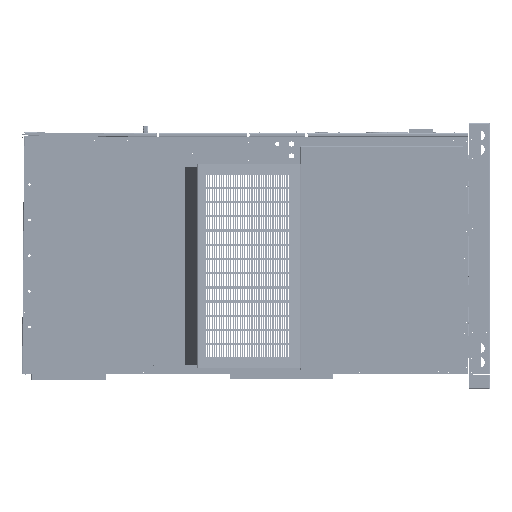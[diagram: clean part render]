
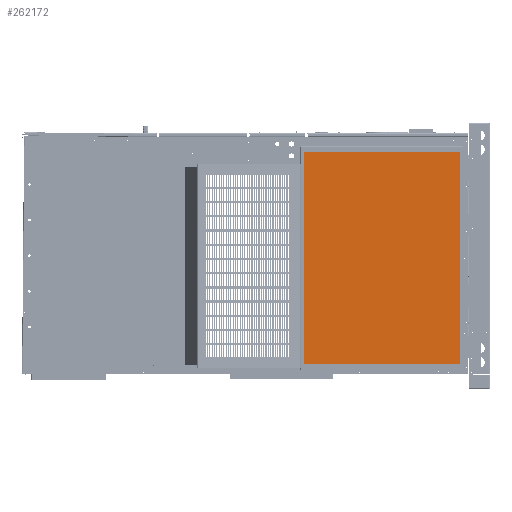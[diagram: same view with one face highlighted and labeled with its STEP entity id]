
A CAD part, left-side view. The second image highlights one B-rep face of the part: STEP entity #262172.
In plain terms, the highlighted planar face has unit normal (-1, 0, 0).
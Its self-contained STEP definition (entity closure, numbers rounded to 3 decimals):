
#28095 = ORIENTED_EDGE ( 'NONE', *, *, #362838, .T. ) ;
#33561 = LINE ( 'NONE', #519769, #161753 ) ;
#69043 = PLANE ( 'NONE',  #358451 ) ;
#81263 = CARTESIAN_POINT ( 'NONE',  ( 16.91, 2013.959, 569.305 ) ) ;
#90401 = VERTEX_POINT ( 'NONE', #150671 ) ;
#125371 = DIRECTION ( 'NONE',  ( 0., 0., -1. ) ) ;
#140235 = EDGE_CURVE ( 'NONE', #234863, #266082, #672317, .T. ) ;
#150671 = CARTESIAN_POINT ( 'NONE',  ( 16.91, 1177.804, 1704.346 ) ) ;
#161753 = VECTOR ( 'NONE', #163139, 1000. ) ;
#161867 = VECTOR ( 'NONE', #125371, 1000. ) ;
#163139 = DIRECTION ( 'NONE',  ( 0., 0., 1. ) ) ;
#234863 = VERTEX_POINT ( 'NONE', #472900 ) ;
#255288 = DIRECTION ( 'NONE',  ( 0., 0., 1. ) ) ;
#262172 = ADVANCED_FACE ( 'NONE', ( #623913 ), #69043, .T. ) ;
#266082 = VERTEX_POINT ( 'NONE', #421375 ) ;
#299044 = ORIENTED_EDGE ( 'NONE', *, *, #385515, .T. ) ;
#315654 = LINE ( 'NONE', #745170, #540005 ) ;
#358451 = AXIS2_PLACEMENT_3D ( 'NONE', #502436, #692673, #255288 ) ;
#362838 = EDGE_CURVE ( 'NONE', #711139, #90401, #33561, .T. ) ;
#370937 = ORIENTED_EDGE ( 'NONE', *, *, #501978, .T. ) ;
#380429 = CARTESIAN_POINT ( 'NONE',  ( 16.91, 2013.959, 1704.346 ) ) ;
#385515 = EDGE_CURVE ( 'NONE', #266082, #711139, #591392, .T. ) ;
#421375 = CARTESIAN_POINT ( 'NONE',  ( 16.91, 2013.959, 569.305 ) ) ;
#438060 = CARTESIAN_POINT ( 'NONE',  ( 16.91, 1177.804, 569.305 ) ) ;
#468906 = ORIENTED_EDGE ( 'NONE', *, *, #140235, .T. ) ;
#472900 = CARTESIAN_POINT ( 'NONE',  ( 16.91, 2013.959, 1704.346 ) ) ;
#501978 = EDGE_CURVE ( 'NONE', #90401, #234863, #315654, .T. ) ;
#502436 = CARTESIAN_POINT ( 'NONE',  ( 16.91, 1165.104, 538.825 ) ) ;
#519769 = CARTESIAN_POINT ( 'NONE',  ( 16.91, 1177.804, 569.305 ) ) ;
#540005 = VECTOR ( 'NONE', #562831, 1000. ) ;
#562831 = DIRECTION ( 'NONE',  ( 0., 1., 0. ) ) ;
#591392 = LINE ( 'NONE', #81263, #692895 ) ;
#623913 = FACE_OUTER_BOUND ( 'NONE', #777627, .T. ) ;
#648149 = DIRECTION ( 'NONE',  ( 0., -1., 0. ) ) ;
#672317 = LINE ( 'NONE', #380429, #161867 ) ;
#692673 = DIRECTION ( 'NONE',  ( -1., 0., 0. ) ) ;
#692895 = VECTOR ( 'NONE', #648149, 1000. ) ;
#711139 = VERTEX_POINT ( 'NONE', #438060 ) ;
#745170 = CARTESIAN_POINT ( 'NONE',  ( 16.91, 1177.804, 1704.346 ) ) ;
#777627 = EDGE_LOOP ( 'NONE', ( #299044, #28095, #370937, #468906 ) ) ;
